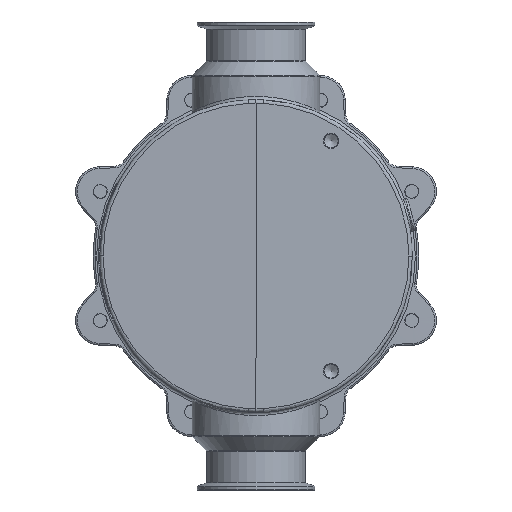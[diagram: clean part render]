
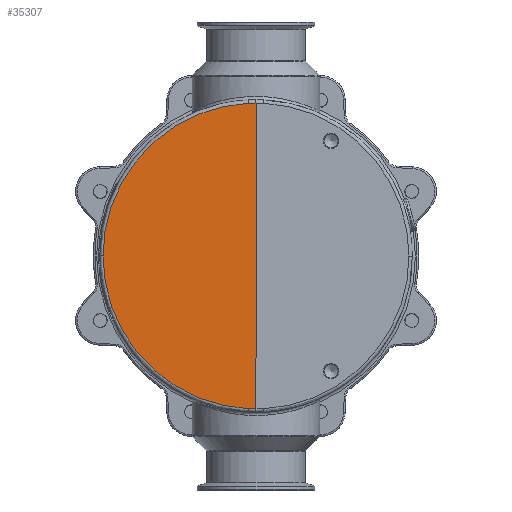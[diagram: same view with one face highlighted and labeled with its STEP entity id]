
A CAD part, front view. The second image highlights one B-rep face of the part: STEP entity #35307.
In plain terms, the highlighted planar face has unit normal (-0.018, -1, 0).
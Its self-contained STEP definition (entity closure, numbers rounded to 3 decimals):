
#66=PLANE('',#37802);
#1169=(
BOUNDED_CURVE()
B_SPLINE_CURVE(3,(#50968,#50969,#50970,#50971,#50972,#50973,#50974,#50975,
#50976,#50977,#50978,#50979,#50980,#50981,#50982,#50983,#50984,#50985),
 .UNSPECIFIED.,.F.,.F.)
B_SPLINE_CURVE_WITH_KNOTS((4,2,2,2,2,2,2,2,4),(4.762,4.952,
5.142,5.332,5.522,5.713,5.903,
6.093,6.283),.UNSPECIFIED.)
CURVE()
GEOMETRIC_REPRESENTATION_ITEM()
RATIONAL_B_SPLINE_CURVE((1.,1.,1.,1.,1.,1.,1.,1.,1.,1.,1.,1.,1.,1.,1.,1.,
1.,1.))
REPRESENTATION_ITEM('')
);
#1171=(
BOUNDED_CURVE()
B_SPLINE_CURVE(3,(#58480,#58481,#58482,#58483,#58484,#58485,#58486,#58487,
#58488,#58489,#58490,#58491,#58492,#58493,#58494,#58495,#58496,#58497),
 .UNSPECIFIED.,.F.,.F.)
B_SPLINE_CURVE_WITH_KNOTS((4,2,2,2,2,2,2,2,4),(0.,0.19,0.38,
0.571,0.761,0.951,1.141,
1.331,1.522),.UNSPECIFIED.)
CURVE()
GEOMETRIC_REPRESENTATION_ITEM()
RATIONAL_B_SPLINE_CURVE((1.,1.,1.,1.,1.,1.,1.,1.,1.,1.,1.,1.,1.,1.,1.,1.,
1.,1.))
REPRESENTATION_ITEM('')
);
#3856=FACE_OUTER_BOUND('',#5983,.T.);
#5983=EDGE_LOOP('',(#24740,#24741,#24742,#24743,#24744));
#8257=LINE('',#58471,#11167);
#11167=VECTOR('',#41746,39.37);
#14183=B_SPLINE_CURVE_WITH_KNOTS('',3,(#58472,#58473,#58474,#58475,#58476,
#58477,#58478),.UNSPECIFIED.,.F.,.F.,(4,3,4),(0.,0.003,
0.006),.UNSPECIFIED.);
#14184=B_SPLINE_CURVE_WITH_KNOTS('',3,(#58498,#58499,#58500,#58501,#58502,
#58503,#58504),.UNSPECIFIED.,.F.,.F.,(4,3,4),(0.,0.003,0.006),
 .UNSPECIFIED.);
#14728=VERTEX_POINT('',#50965);
#14729=VERTEX_POINT('',#50967);
#15284=VERTEX_POINT('',#58469);
#15285=VERTEX_POINT('',#58470);
#15286=VERTEX_POINT('',#58479);
#18318=EDGE_CURVE('',#14729,#14728,#1169,.T.);
#18967=EDGE_CURVE('',#15284,#15285,#8257,.T.);
#18968=EDGE_CURVE('',#15285,#14729,#14183,.T.);
#18969=EDGE_CURVE('',#14728,#15286,#1171,.T.);
#18970=EDGE_CURVE('',#15286,#15284,#14184,.T.);
#24740=ORIENTED_EDGE('',*,*,#18967,.T.);
#24741=ORIENTED_EDGE('',*,*,#18968,.T.);
#24742=ORIENTED_EDGE('',*,*,#18318,.T.);
#24743=ORIENTED_EDGE('',*,*,#18969,.T.);
#24744=ORIENTED_EDGE('',*,*,#18970,.T.);
#35307=ADVANCED_FACE('',(#3856),#66,.T.);
#37802=AXIS2_PLACEMENT_3D('',#58468,#41744,#41745);
#41744=DIRECTION('center_axis',(-0.017,-1.,
0.));
#41745=DIRECTION('ref_axis',(-1.,0.017,0.));
#41746=DIRECTION('',(0.,0.,1.));
#50965=CARTESIAN_POINT('',(-4.652,0.081,0.));
#50967=CARTESIAN_POINT('',(-0.231,0.004,4.644));
#50968=CARTESIAN_POINT('Ctrl Pts',(-0.231,0.004,
4.644));
#50969=CARTESIAN_POINT('Ctrl Pts',(-0.525,0.009,
4.63));
#50970=CARTESIAN_POINT('Ctrl Pts',(-0.818,0.014,
4.587));
#50971=CARTESIAN_POINT('Ctrl Pts',(-1.391,0.024,
4.447));
#50972=CARTESIAN_POINT('Ctrl Pts',(-1.671,0.029,
4.35));
#50973=CARTESIAN_POINT('Ctrl Pts',(-2.207,0.039,
4.105));
#50974=CARTESIAN_POINT('Ctrl Pts',(-2.463,0.043,
3.956));
#50975=CARTESIAN_POINT('Ctrl Pts',(-2.943,0.051,
3.614));
#50976=CARTESIAN_POINT('Ctrl Pts',(-3.166,0.055,
3.42));
#50977=CARTESIAN_POINT('Ctrl Pts',(-3.573,0.062,
2.993));
#50978=CARTESIAN_POINT('Ctrl Pts',(-3.756,0.066,
2.76));
#50979=CARTESIAN_POINT('Ctrl Pts',(-4.074,0.071,
2.263));
#50980=CARTESIAN_POINT('Ctrl Pts',(-4.21,0.073,
2.));
#50981=CARTESIAN_POINT('Ctrl Pts',(-4.429,0.077,
1.453));
#50982=CARTESIAN_POINT('Ctrl Pts',(-4.512,0.079,
1.169));
#50983=CARTESIAN_POINT('Ctrl Pts',(-4.624,0.081,
0.59));
#50984=CARTESIAN_POINT('Ctrl Pts',(-4.652,0.081,
0.295));
#50985=CARTESIAN_POINT('Ctrl Pts',(-4.652,0.081,
0.));
#58468=CARTESIAN_POINT('Origin',(0.,0.,
-4.75));
#58469=CARTESIAN_POINT('',(0.,0.,
-4.65));
#58470=CARTESIAN_POINT('',(0.,0.,4.65));
#58471=CARTESIAN_POINT('',(0.,0.,
-4.75));
#58472=CARTESIAN_POINT('Ctrl Pts',(0.,0.,
4.65));
#58473=CARTESIAN_POINT('Ctrl Pts',(-0.038,0.001,
4.65));
#58474=CARTESIAN_POINT('Ctrl Pts',(-0.076,0.001,
4.65));
#58475=CARTESIAN_POINT('Ctrl Pts',(-0.115,0.002,
4.649));
#58476=CARTESIAN_POINT('Ctrl Pts',(-0.153,0.003,
4.648));
#58477=CARTESIAN_POINT('Ctrl Pts',(-0.192,0.003,
4.646));
#58478=CARTESIAN_POINT('Ctrl Pts',(-0.231,0.004,
4.644));
#58479=CARTESIAN_POINT('',(-0.231,0.004,-4.644));
#58480=CARTESIAN_POINT('Ctrl Pts',(-4.652,0.081,
0.));
#58481=CARTESIAN_POINT('Ctrl Pts',(-4.652,0.081,
-0.295));
#58482=CARTESIAN_POINT('Ctrl Pts',(-4.624,0.081,
-0.59));
#58483=CARTESIAN_POINT('Ctrl Pts',(-4.512,0.079,
-1.169));
#58484=CARTESIAN_POINT('Ctrl Pts',(-4.429,0.077,
-1.453));
#58485=CARTESIAN_POINT('Ctrl Pts',(-4.21,0.073,
-2.));
#58486=CARTESIAN_POINT('Ctrl Pts',(-4.074,0.071,
-2.263));
#58487=CARTESIAN_POINT('Ctrl Pts',(-3.756,0.066,
-2.76));
#58488=CARTESIAN_POINT('Ctrl Pts',(-3.573,0.062,
-2.993));
#58489=CARTESIAN_POINT('Ctrl Pts',(-3.166,0.055,
-3.42));
#58490=CARTESIAN_POINT('Ctrl Pts',(-2.943,0.051,
-3.614));
#58491=CARTESIAN_POINT('Ctrl Pts',(-2.463,0.043,-3.956));
#58492=CARTESIAN_POINT('Ctrl Pts',(-2.207,0.039,-4.105));
#58493=CARTESIAN_POINT('Ctrl Pts',(-1.671,0.029,
-4.35));
#58494=CARTESIAN_POINT('Ctrl Pts',(-1.391,0.024,
-4.447));
#58495=CARTESIAN_POINT('Ctrl Pts',(-0.818,0.014,
-4.587));
#58496=CARTESIAN_POINT('Ctrl Pts',(-0.525,0.009,
-4.63));
#58497=CARTESIAN_POINT('Ctrl Pts',(-0.231,0.004,
-4.644));
#58498=CARTESIAN_POINT('Ctrl Pts',(-0.231,0.004,
-4.644));
#58499=CARTESIAN_POINT('Ctrl Pts',(-0.192,0.003,
-4.646));
#58500=CARTESIAN_POINT('Ctrl Pts',(-0.153,0.003,
-4.648));
#58501=CARTESIAN_POINT('Ctrl Pts',(-0.115,0.002,
-4.649));
#58502=CARTESIAN_POINT('Ctrl Pts',(-0.076,0.001,
-4.65));
#58503=CARTESIAN_POINT('Ctrl Pts',(-0.038,0.001,
-4.65));
#58504=CARTESIAN_POINT('Ctrl Pts',(0.,0.,
-4.65));
